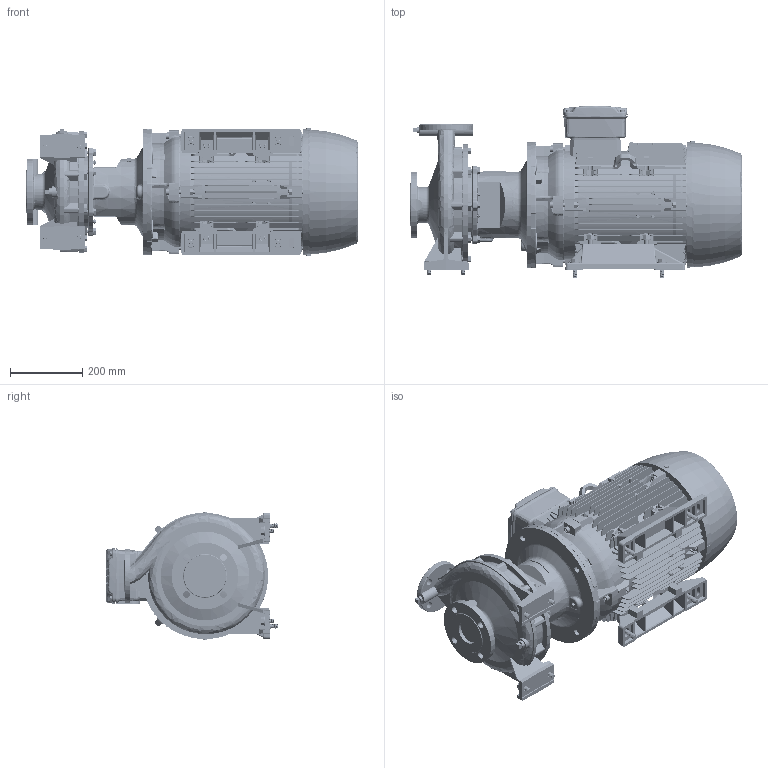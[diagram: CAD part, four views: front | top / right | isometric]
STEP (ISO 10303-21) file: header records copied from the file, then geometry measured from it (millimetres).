
FILE_DESCRIPTION (( 'STEP AP214' ), '1' );
FILE_NAME ('GSD2 40-250_22.0_(180ML)_W21.STEP', '2026-07-02T05:47:29', ( '' ), ( '' ), 'SwSTEP 2.0', 'SolidWorks 2024', '' );
FILE_SCHEMA (( 'AUTOMOTIVE_DESIGN' ));
Length unit declared in the file: millimetre
Products named in the file (8): Parametric bolt and washer_SFT-A299B; 180M_L ALIE3_W21T_B35; Parametric Flat Washer_M12; Parametric bolt and washer_SFT-A305B; 40-250-180M_L; Parametric bolt_SFT-A305B; Parametric bolt_SFT-A299B; GSD2  40-250_22.0_(180ML)_W21
Assembly tree (14 placements, depth 3):
  GSD2  40-250_22.0_(180ML)_W21
    40-250-180M_L
    Parametric bolt and washer_SFT-A299B  x4
      Parametric bolt_SFT-A299B
      Parametric Flat Washer_M12
    180M_L ALIE3_W21T_B35
    Parametric bolt and washer_SFT-A305B  x4
      Parametric bolt_SFT-A305B
      Parametric Flat Washer_M12
Bounding box: 919.8 x 477 x 356 mm (x, y, z)
Volume: 59181860.8 mm3; surface area: 3277407.4 mm2
Topology: 61 solids, 61 shells, 6552 faces, 17040 edges, 11067 vertices
Faces by surface type: plane 3913, cylinder 1235, cone 655, bspline 441, torus 292, sphere 16
Entity records: 225722 total; most frequent: CARTESIAN_POINT 79960, ORIENTED_EDGE 32040, DIRECTION 27212, EDGE_CURVE 16020, VERTEX_POINT 10416, VECTOR 9934, LINE 9934, AXIS2_PLACEMENT_3D 8639
